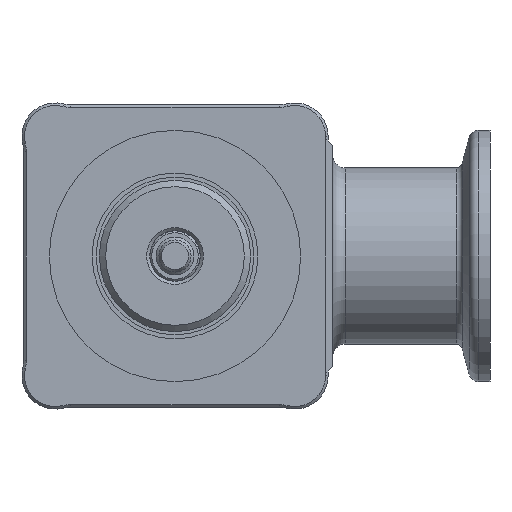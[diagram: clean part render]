
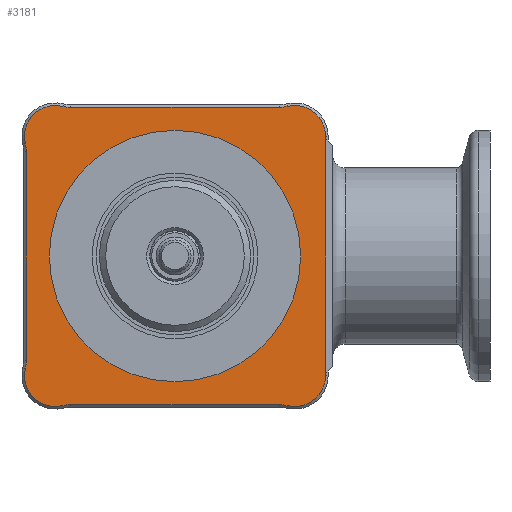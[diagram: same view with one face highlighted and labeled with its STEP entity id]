
A CAD part, front view. The second image highlights one B-rep face of the part: STEP entity #3181.
In plain terms, the highlighted planar face has unit normal (0, -1, 0).
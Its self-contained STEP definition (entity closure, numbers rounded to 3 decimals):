
#2020=LINE('',#12250,#2603);
#2021=LINE('',#12253,#2604);
#2022=LINE('',#12255,#2605);
#2023=LINE('',#12261,#2606);
#2024=LINE('',#12269,#2607);
#2025=LINE('',#12277,#2608);
#2603=VECTOR('',#9981,1.);
#2604=VECTOR('',#9982,1.);
#2605=VECTOR('',#9983,1.);
#2606=VECTOR('',#9988,1.);
#2607=VECTOR('',#9995,1.);
#2608=VECTOR('',#10002,1.);
#3181=ADVANCED_FACE('',(#3904,#3905),#3663,.F.);
#3663=PLANE('',#9137);
#3904=FACE_BOUND('',#4306,.T.);
#3905=FACE_BOUND('',#4307,.T.);
#4306=EDGE_LOOP('',(#5002,#5003,#5004,#5005,#5006,#5007,#5008,#5009,#5010,
#5011,#5012,#5013,#5014,#5015,#5016,#5017));
#4307=EDGE_LOOP('',(#5018));
#5002=ORIENTED_EDGE('',*,*,#7751,.T.);
#5003=ORIENTED_EDGE('',*,*,#7752,.T.);
#5004=ORIENTED_EDGE('',*,*,#7753,.T.);
#5005=ORIENTED_EDGE('',*,*,#7754,.T.);
#5006=ORIENTED_EDGE('',*,*,#7755,.T.);
#5007=ORIENTED_EDGE('',*,*,#7756,.T.);
#5008=ORIENTED_EDGE('',*,*,#7757,.T.);
#5009=ORIENTED_EDGE('',*,*,#7758,.T.);
#5010=ORIENTED_EDGE('',*,*,#7759,.T.);
#5011=ORIENTED_EDGE('',*,*,#7760,.T.);
#5012=ORIENTED_EDGE('',*,*,#7761,.T.);
#5013=ORIENTED_EDGE('',*,*,#7762,.T.);
#5014=ORIENTED_EDGE('',*,*,#7763,.T.);
#5015=ORIENTED_EDGE('',*,*,#7764,.T.);
#5016=ORIENTED_EDGE('',*,*,#7765,.T.);
#5017=ORIENTED_EDGE('',*,*,#7766,.T.);
#5018=ORIENTED_EDGE('',*,*,#7767,.T.);
#7022=VERTEX_POINT('',#12251);
#7023=VERTEX_POINT('',#12252);
#7024=VERTEX_POINT('',#12254);
#7025=VERTEX_POINT('',#12256);
#7026=VERTEX_POINT('',#12258);
#7027=VERTEX_POINT('',#12260);
#7028=VERTEX_POINT('',#12262);
#7029=VERTEX_POINT('',#12264);
#7030=VERTEX_POINT('',#12266);
#7031=VERTEX_POINT('',#12268);
#7032=VERTEX_POINT('',#12270);
#7033=VERTEX_POINT('',#12272);
#7034=VERTEX_POINT('',#12274);
#7035=VERTEX_POINT('',#12276);
#7036=VERTEX_POINT('',#12278);
#7037=VERTEX_POINT('',#12280);
#7038=VERTEX_POINT('',#12283);
#7751=EDGE_CURVE('',#7022,#7023,#2020,.T.);
#7752=EDGE_CURVE('',#7023,#7024,#2021,.T.);
#7753=EDGE_CURVE('',#7024,#7025,#2022,.T.);
#7754=EDGE_CURVE('',#7025,#7026,#8753,.T.);
#7755=EDGE_CURVE('',#7026,#7027,#8754,.T.);
#7756=EDGE_CURVE('',#7027,#7028,#2023,.T.);
#7757=EDGE_CURVE('',#7028,#7029,#8755,.T.);
#7758=EDGE_CURVE('',#7029,#7030,#8756,.T.);
#7759=EDGE_CURVE('',#7030,#7031,#8757,.T.);
#7760=EDGE_CURVE('',#7031,#7032,#2024,.T.);
#7761=EDGE_CURVE('',#7032,#7033,#8758,.T.);
#7762=EDGE_CURVE('',#7033,#7034,#8759,.T.);
#7763=EDGE_CURVE('',#7034,#7035,#8760,.T.);
#7764=EDGE_CURVE('',#7035,#7036,#2025,.T.);
#7765=EDGE_CURVE('',#7036,#7037,#8761,.T.);
#7766=EDGE_CURVE('',#7037,#7022,#8762,.T.);
#7767=EDGE_CURVE('',#7038,#7038,#8763,.T.);
#8753=CIRCLE('',#9126,4.9);
#8754=CIRCLE('',#9127,5.4);
#8755=CIRCLE('',#9128,5.4);
#8756=CIRCLE('',#9129,4.9);
#8757=CIRCLE('',#9130,5.4);
#8758=CIRCLE('',#9131,5.4);
#8759=CIRCLE('',#9132,4.9);
#8760=CIRCLE('',#9133,5.4);
#8761=CIRCLE('',#9134,5.4);
#8762=CIRCLE('',#9135,4.9);
#8763=CIRCLE('',#9136,16.);
#9126=AXIS2_PLACEMENT_3D('',#12257,#9984,#9985);
#9127=AXIS2_PLACEMENT_3D('',#12259,#9986,#9987);
#9128=AXIS2_PLACEMENT_3D('',#12263,#9989,#9990);
#9129=AXIS2_PLACEMENT_3D('',#12265,#9991,#9992);
#9130=AXIS2_PLACEMENT_3D('',#12267,#9993,#9994);
#9131=AXIS2_PLACEMENT_3D('',#12271,#9996,#9997);
#9132=AXIS2_PLACEMENT_3D('',#12273,#9998,#9999);
#9133=AXIS2_PLACEMENT_3D('',#12275,#10000,#10001);
#9134=AXIS2_PLACEMENT_3D('',#12279,#10003,#10004);
#9135=AXIS2_PLACEMENT_3D('',#12281,#10005,#10006);
#9136=AXIS2_PLACEMENT_3D('',#12282,#10007,#10008);
#9137=AXIS2_PLACEMENT_3D('',#12284,#10009,#10010);
#9981=DIRECTION('',(0.,0.,1.));
#9982=DIRECTION('',(0.,0.,1.));
#9983=DIRECTION('',(0.,0.,1.));
#9984=DIRECTION('',(0.,-1.,0.));
#9985=DIRECTION('',(0.,0.,1.));
#9986=DIRECTION('',(0.,1.,0.));
#9987=DIRECTION('',(0.,0.,1.));
#9988=DIRECTION('',(-1.,0.,0.));
#9989=DIRECTION('',(0.,1.,0.));
#9990=DIRECTION('',(0.,0.,1.));
#9991=DIRECTION('',(0.,-1.,0.));
#9992=DIRECTION('',(0.,0.,1.));
#9993=DIRECTION('',(0.,1.,0.));
#9994=DIRECTION('',(0.,0.,1.));
#9995=DIRECTION('',(0.,0.,-1.));
#9996=DIRECTION('',(0.,1.,0.));
#9997=DIRECTION('',(0.,0.,1.));
#9998=DIRECTION('',(0.,-1.,0.));
#9999=DIRECTION('',(0.,0.,1.));
#10000=DIRECTION('',(0.,1.,0.));
#10001=DIRECTION('',(0.,0.,1.));
#10002=DIRECTION('',(1.,0.,0.));
#10003=DIRECTION('',(0.,1.,0.));
#10004=DIRECTION('',(0.,0.,1.));
#10005=DIRECTION('',(0.,-1.,0.));
#10006=DIRECTION('',(0.,0.,1.));
#10007=DIRECTION('',(0.,1.,0.));
#10008=DIRECTION('',(0.,0.,1.));
#10009=DIRECTION('',(0.,1.,0.));
#10010=DIRECTION('',(0.,0.,1.));
#12250=CARTESIAN_POINT('',(23.9,22.,-18.25));
#12251=CARTESIAN_POINT('',(23.9,22.,-19.));
#12252=CARTESIAN_POINT('',(23.9,22.,-18.65));
#12253=CARTESIAN_POINT('',(23.9,22.,17.55));
#12254=CARTESIAN_POINT('',(23.9,22.,18.65));
#12255=CARTESIAN_POINT('',(23.9,22.,19.));
#12256=CARTESIAN_POINT('',(23.9,22.,19.));
#12257=CARTESIAN_POINT('',(19.,22.,19.));
#12258=CARTESIAN_POINT('',(17.826,22.,23.757));
#12259=CARTESIAN_POINT('',(16.532,22.,29.));
#12260=CARTESIAN_POINT('',(16.532,22.,23.6));
#12261=CARTESIAN_POINT('',(-16.532,22.,23.6));
#12262=CARTESIAN_POINT('',(-16.532,22.,23.6));
#12263=CARTESIAN_POINT('',(-16.532,22.,29.));
#12264=CARTESIAN_POINT('',(-17.826,22.,23.757));
#12265=CARTESIAN_POINT('',(-19.,22.,19.));
#12266=CARTESIAN_POINT('',(-23.757,22.,17.826));
#12267=CARTESIAN_POINT('',(-29.,22.,16.532));
#12268=CARTESIAN_POINT('',(-23.6,22.,16.532));
#12269=CARTESIAN_POINT('',(-23.6,22.,-16.532));
#12270=CARTESIAN_POINT('',(-23.6,22.,-16.532));
#12271=CARTESIAN_POINT('',(-29.,22.,-16.532));
#12272=CARTESIAN_POINT('',(-23.757,22.,-17.826));
#12273=CARTESIAN_POINT('',(-19.,22.,-19.));
#12274=CARTESIAN_POINT('',(-17.826,22.,-23.757));
#12275=CARTESIAN_POINT('',(-16.532,22.,-29.));
#12276=CARTESIAN_POINT('',(-16.532,22.,-23.6));
#12277=CARTESIAN_POINT('',(16.532,22.,-23.6));
#12278=CARTESIAN_POINT('',(16.532,22.,-23.6));
#12279=CARTESIAN_POINT('',(16.532,22.,-29.));
#12280=CARTESIAN_POINT('',(17.826,22.,-23.757));
#12281=CARTESIAN_POINT('',(19.,22.,-19.));
#12282=CARTESIAN_POINT('',(0.,22.,0.));
#12283=CARTESIAN_POINT('',(0.,22.,16.));
#12284=CARTESIAN_POINT('',(-25.3,22.,-25.3));
